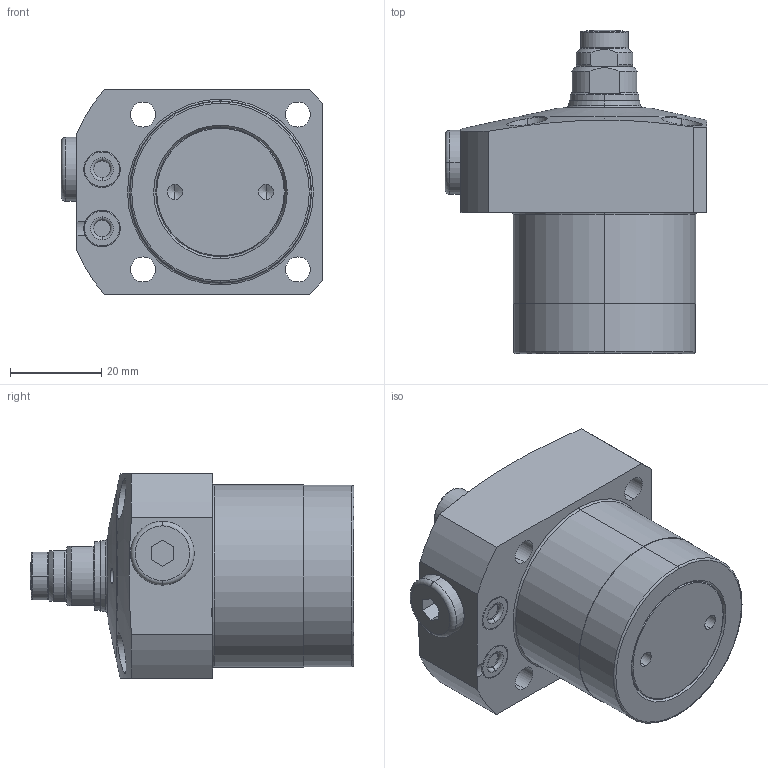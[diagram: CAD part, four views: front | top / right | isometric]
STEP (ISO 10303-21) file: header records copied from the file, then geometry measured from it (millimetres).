
FILE_DESCRIPTION(/* description */ (''),/* implementation_level */ '2;1');
FILE_NAME(/* name */ 'KFSC40-M.stp',/* time_stamp */ '2026-02-04T16:37:13+08:00',/* author */ (''),/* organization */ (''),/* preprocessor_version */ 'ST-DEVELOPER v16.7',/* originating_system */ 'SIEMENS PLM Software NX 12.0',/* authorisation */ '');
FILE_SCHEMA (('AUTOMOTIVE_DESIGN { 1 0 10303 214 3 1 1 1 }'));
Length unit declared in the file: millimetre
Products named in the file (10): XLC-M10SP_contactbolt4043; XLC-M10SP_pin6955; XLC-M10SP_pad3882; XLC-M10_Oring1217; P5-3; KFSC40-M-01; KFSC40-M-02; KFSC40-M-04; KFSC40-M-03; LC0403-CxM_step
Assembly tree (10 placements, depth 3):
  LC0403-CxM_step
    KFSC40-M-03
      XLC-M10_Oring1217
      XLC-M10SP_pad3882
      XLC-M10SP_pin6955
      XLC-M10SP_contactbolt4043
    KFSC40-M-04
    KFSC40-M-02
    KFSC40-M-01
    P5-3  x2
Bounding box: 57.5 x 71 x 45 mm (x, y, z)
Volume: 87388.3 mm3; surface area: 18567.3 mm2
Topology: 9 solids, 9 shells, 278 faces, 612 edges, 370 vertices
Faces by surface type: cylinder 94, torus 62, plane 61, cone 55, sphere 6
Entity records: 8226 total; most frequent: CARTESIAN_POINT 1865, DIRECTION 1412, ORIENTED_EDGE 1160, AXIS2_PLACEMENT_3D 609, EDGE_CURVE 580, VERTEX_POINT 356, CIRCLE 332, EDGE_LOOP 312
